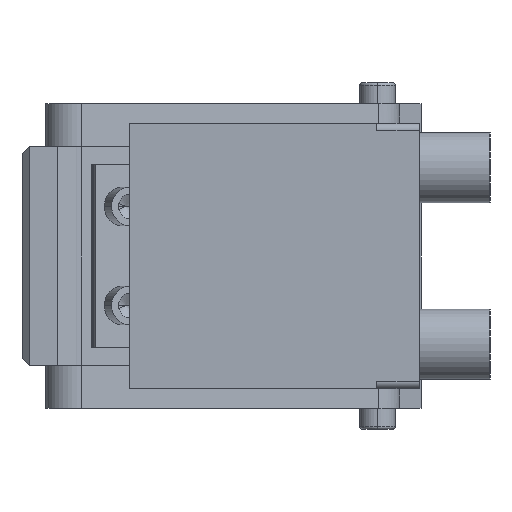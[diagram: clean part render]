
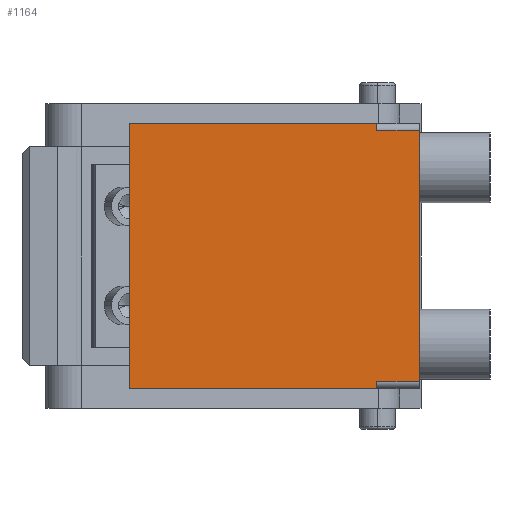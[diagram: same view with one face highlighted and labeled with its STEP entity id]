
A CAD part, left-side view. The second image highlights one B-rep face of the part: STEP entity #1164.
In plain terms, the highlighted planar face has unit normal (-1, 0, 0).
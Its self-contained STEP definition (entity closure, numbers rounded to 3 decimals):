
#749=PLANE('',#8636);
#1164=ADVANCED_FACE('NONE',(#1660),#749,.T.);
#1660=FACE_OUTER_BOUND('',#2201,.T.);
#2201=EDGE_LOOP('',(#4207,#4208,#4209,#4210,#4211,#4212,#4213,#4214));
#4207=ORIENTED_EDGE('',*,*,#6426,.T.);
#4208=ORIENTED_EDGE('',*,*,#6364,.T.);
#4209=ORIENTED_EDGE('',*,*,#6422,.T.);
#4210=ORIENTED_EDGE('',*,*,#6373,.T.);
#4211=ORIENTED_EDGE('',*,*,#6427,.T.);
#4212=ORIENTED_EDGE('',*,*,#6366,.T.);
#4213=ORIENTED_EDGE('',*,*,#6428,.F.);
#4214=ORIENTED_EDGE('',*,*,#6429,.F.);
#5442=VERTEX_POINT('',#12871);
#5443=VERTEX_POINT('',#12873);
#5444=VERTEX_POINT('',#12877);
#5446=VERTEX_POINT('',#12880);
#5451=VERTEX_POINT('',#12893);
#5452=VERTEX_POINT('',#12895);
#5484=VERTEX_POINT('',#12997);
#5485=VERTEX_POINT('',#13002);
#6364=EDGE_CURVE('NONE',#5442,#5443,#7130,.T.);
#6366=EDGE_CURVE('NONE',#5446,#5444,#7131,.T.);
#6373=EDGE_CURVE('NONE',#5452,#5451,#7138,.T.);
#6422=EDGE_CURVE('NONE',#5443,#5452,#7175,.T.);
#6426=EDGE_CURVE('NONE',#5484,#5442,#7178,.T.);
#6427=EDGE_CURVE('NONE',#5451,#5446,#7179,.T.);
#6428=EDGE_CURVE('NONE',#5485,#5444,#7180,.T.);
#6429=EDGE_CURVE('NONE',#5484,#5485,#7181,.T.);
#7130=LINE('',#12874,#7748);
#7131=LINE('',#12879,#7749);
#7138=LINE('',#12894,#7756);
#7175=LINE('',#12991,#7793);
#7178=LINE('',#12998,#7796);
#7179=LINE('',#13000,#7797);
#7180=LINE('',#13001,#7798);
#7181=LINE('',#13003,#7799);
#7748=VECTOR('',#10461,1.);
#7749=VECTOR('',#10466,1.);
#7756=VECTOR('',#10477,1.);
#7793=VECTOR('',#10572,1.);
#7796=VECTOR('',#10579,1.);
#7797=VECTOR('',#10582,1.);
#7798=VECTOR('',#10583,1.);
#7799=VECTOR('',#10584,1.);
#8636=AXIS2_PLACEMENT_3D('',#13004,#10585,#10586);
#10461=DIRECTION('',(0.,0.,1.));
#10466=DIRECTION('',(0.,0.,1.));
#10477=DIRECTION('',(0.,0.,-1.));
#10572=DIRECTION('',(0.,1.,0.));
#10579=DIRECTION('',(0.,1.,0.));
#10582=DIRECTION('',(0.,-1.,0.));
#10583=DIRECTION('',(0.,1.,0.));
#10584=DIRECTION('',(0.,0.,-1.));
#10585=DIRECTION('',(-1.,0.,0.));
#10586=DIRECTION('',(0.,-1.,0.));
#12871=CARTESIAN_POINT('',(-218.437,-24.183,35.5));
#12873=CARTESIAN_POINT('',(-218.437,-24.183,37.5));
#12874=CARTESIAN_POINT('',(-218.437,-24.183,-37.5));
#12877=CARTESIAN_POINT('',(-218.437,-24.183,-35.5));
#12879=CARTESIAN_POINT('',(-218.437,-24.183,-37.5));
#12880=CARTESIAN_POINT('',(-218.437,-24.183,-37.5));
#12893=CARTESIAN_POINT('',(-218.437,45.817,-37.5));
#12894=CARTESIAN_POINT('',(-218.437,45.817,-37.5));
#12895=CARTESIAN_POINT('',(-218.437,45.817,37.5));
#12991=CARTESIAN_POINT('',(-218.437,45.817,37.5));
#12997=CARTESIAN_POINT('',(-218.437,-36.183,35.5));
#12998=CARTESIAN_POINT('',(-218.437,45.817,35.5));
#13000=CARTESIAN_POINT('',(-218.437,-325.532,-37.5));
#13001=CARTESIAN_POINT('',(-218.437,-24.183,-35.5));
#13002=CARTESIAN_POINT('',(-218.437,-36.183,-35.5));
#13003=CARTESIAN_POINT('',(-218.437,-36.183,-49.));
#13004=CARTESIAN_POINT('',(-218.437,45.817,-37.5));
